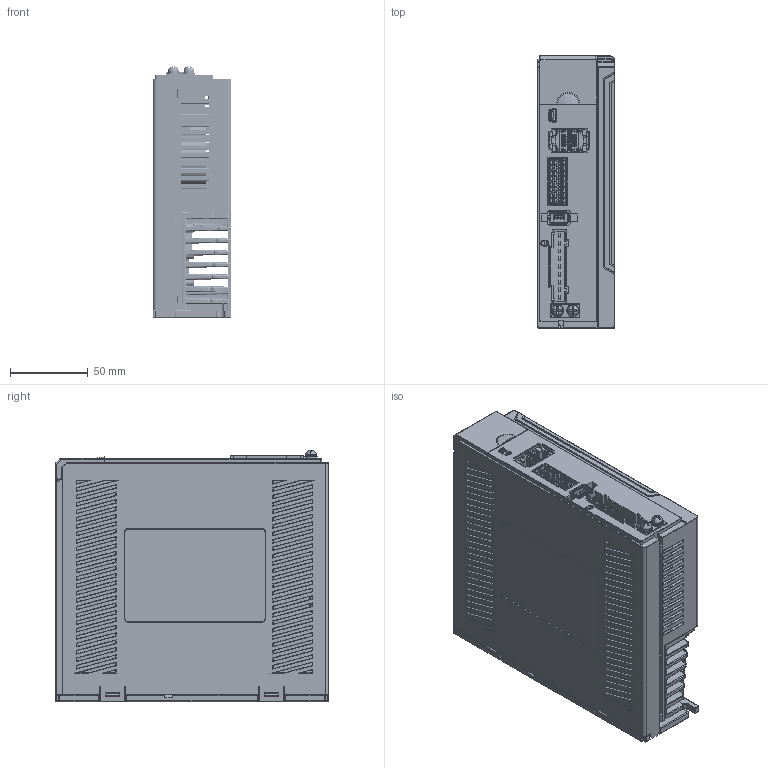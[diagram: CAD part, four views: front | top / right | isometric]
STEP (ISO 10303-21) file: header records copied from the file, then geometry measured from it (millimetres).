
FILE_DESCRIPTION((''),'2;1');
FILE_NAME('PRT0002','2022-01-07T14:12:41',('chensf'),(''),'CREO PARAMETRIC BY PTC INC, 2019010','CREO PARAMETRIC BY PTC INC, 2019010','');
FILE_SCHEMA(('CONFIG_CONTROL_DESIGN','GEOMETRIC_VALIDATION_PROPERTIES_MIM'));
Products named in the file (1): PRT0002
Bounding box: 50 x 175 x 161.49 mm (x, y, z)
Volume: 436940.8 mm3; surface area: 328732.5 mm2
Topology: 1 solids, 8 shells, 7527 faces, 19626 edges, 11791 vertices
Faces by surface type: plane 3745, cylinder 2273, bspline 606, sphere 336, torus 284, cone 239, extrusion 40, revolution 4
Entity records: 256353 total; most frequent: CARTESIAN_POINT 79633, ORIENTED_EDGE 38448, DIRECTION 33871, EDGE_CURVE 19224, VECTOR 12747, LINE 12707, VERTEX_POINT 11791, AXIS2_PLACEMENT_3D 10560
